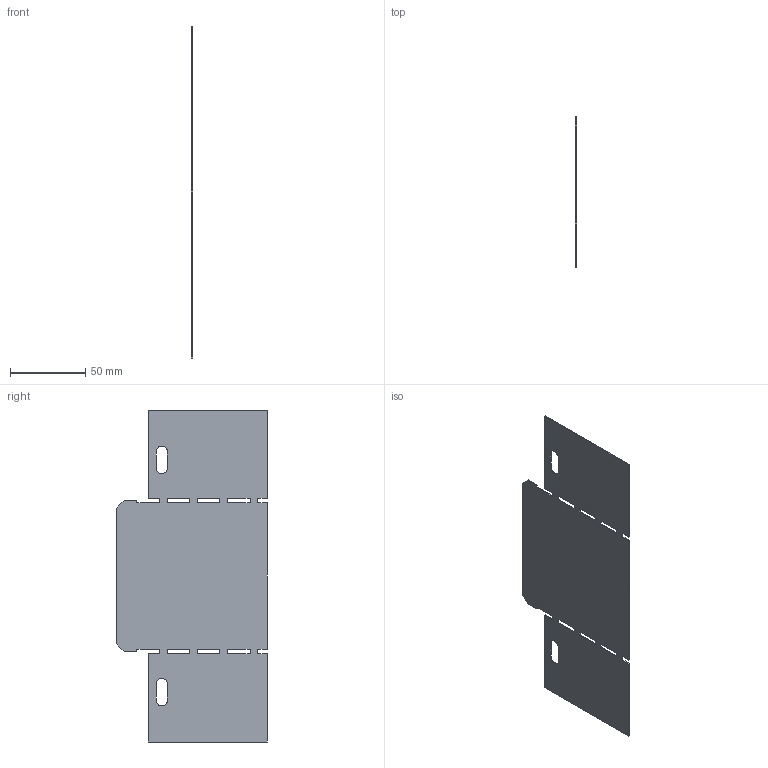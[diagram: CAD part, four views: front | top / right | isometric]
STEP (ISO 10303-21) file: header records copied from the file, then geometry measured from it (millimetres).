
FILE_DESCRIPTION (( 'STEP AP203' ), '1' );
FILE_NAME ('REER 100x100.STEP', '2020-02-12T08:24:22', ( '' ), ( '' ), 'SwSTEP 2.0', 'SolidWorks 2019', '' );
FILE_SCHEMA (( 'CONFIG_CONTROL_DESIGN' ));
Length unit declared in the file: millimetre
Products named in the file (1): REER 100x100
Bounding box: 0.7 x 100 x 220 mm (x, y, z)
Volume: 13182.9 mm3; surface area: 38366.2 mm2
Topology: 1 solids, 1 shells, 62 faces, 180 edges, 120 vertices
Faces by surface type: plane 56, cylinder 6
Entity records: 2125 total; most frequent: CARTESIAN_POINT 363, ORIENTED_EDGE 360, DIRECTION 318, EDGE_CURVE 180, LINE 168, VECTOR 168, VERTEX_POINT 120, EDGE_LOOP 78
